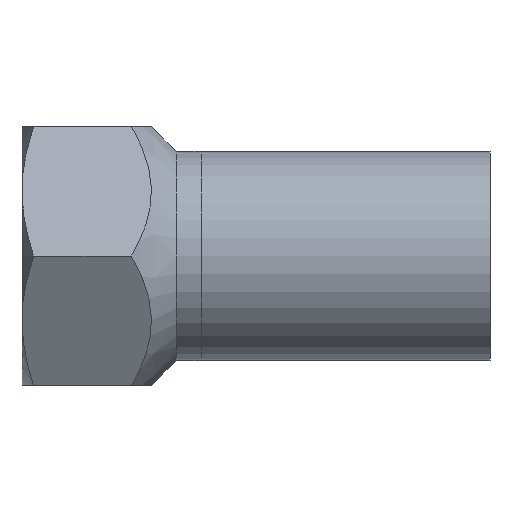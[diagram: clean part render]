
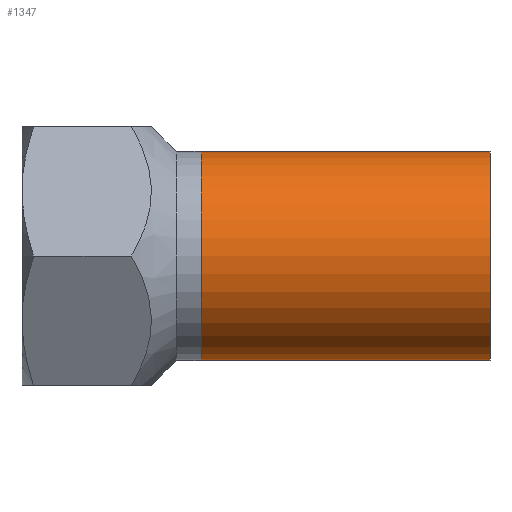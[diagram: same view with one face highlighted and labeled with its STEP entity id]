
A CAD part, front view. The second image highlights one B-rep face of the part: STEP entity #1347.
In plain terms, the highlighted cylindrical face has radius 21 mm (diameter 42 mm), a partial arc.
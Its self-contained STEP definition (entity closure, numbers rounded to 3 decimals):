
#29 = CARTESIAN_POINT ( 'NONE',  ( 0., 0., 0. ) ) ;
#32 = LINE ( 'NONE', #899, #268 ) ;
#64 = VERTEX_POINT ( 'NONE', #563 ) ;
#197 = EDGE_CURVE ( 'NONE', #409, #64, #1096, .T. ) ;
#221 = VECTOR ( 'NONE', #375, 1000. ) ;
#268 = VECTOR ( 'NONE', #794, 1000. ) ;
#302 = EDGE_LOOP ( 'NONE', ( #973, #1102, #343, #446 ) ) ;
#308 = CYLINDRICAL_SURFACE ( 'NONE', #1290, 21. ) ;
#343 = ORIENTED_EDGE ( 'NONE', *, *, #197, .T. ) ;
#367 = DIRECTION ( 'NONE',  ( 0., 0., -1. ) ) ;
#375 = DIRECTION ( 'NONE',  ( 1., 0., 0. ) ) ;
#397 = DIRECTION ( 'NONE',  ( 1., 0., 0. ) ) ;
#409 = VERTEX_POINT ( 'NONE', #1005 ) ;
#434 = DIRECTION ( 'NONE',  ( 0., 0., -1. ) ) ;
#446 = ORIENTED_EDGE ( 'NONE', *, *, #1015, .F. ) ;
#563 = CARTESIAN_POINT ( 'NONE',  ( 58., 0., -21. ) ) ;
#592 = DIRECTION ( 'NONE',  ( 0., 0., -1. ) ) ;
#670 = FACE_OUTER_BOUND ( 'NONE', #302, .T. ) ;
#674 = VERTEX_POINT ( 'NONE', #800 ) ;
#683 = CARTESIAN_POINT ( 'NONE',  ( 0., 0., -21. ) ) ;
#724 = EDGE_CURVE ( 'NONE', #1178, #409, #738, .T. ) ;
#738 = CIRCLE ( 'NONE', #862, 21. ) ;
#780 = CARTESIAN_POINT ( 'NONE',  ( 0., 0., 21. ) ) ;
#794 = DIRECTION ( 'NONE',  ( 1., 0., 0. ) ) ;
#799 = AXIS2_PLACEMENT_3D ( 'NONE', #1345, #397, #367 ) ;
#800 = CARTESIAN_POINT ( 'NONE',  ( 58., 0., 21. ) ) ;
#862 = AXIS2_PLACEMENT_3D ( 'NONE', #29, #1047, #434 ) ;
#899 = CARTESIAN_POINT ( 'NONE',  ( 0., 0., 21. ) ) ;
#902 = EDGE_CURVE ( 'NONE', #1178, #674, #32, .T. ) ;
#929 = CIRCLE ( 'NONE', #799, 21. ) ;
#973 = ORIENTED_EDGE ( 'NONE', *, *, #902, .F. ) ;
#1005 = CARTESIAN_POINT ( 'NONE',  ( 0., 0., -21. ) ) ;
#1015 = EDGE_CURVE ( 'NONE', #674, #64, #929, .T. ) ;
#1047 = DIRECTION ( 'NONE',  ( 1., 0., 0. ) ) ;
#1096 = LINE ( 'NONE', #683, #221 ) ;
#1102 = ORIENTED_EDGE ( 'NONE', *, *, #724, .T. ) ;
#1129 = CARTESIAN_POINT ( 'NONE',  ( 0., 0., 0. ) ) ;
#1178 = VERTEX_POINT ( 'NONE', #780 ) ;
#1290 = AXIS2_PLACEMENT_3D ( 'NONE', #1129, #1340, #592 ) ;
#1340 = DIRECTION ( 'NONE',  ( 1., 0., 0. ) ) ;
#1345 = CARTESIAN_POINT ( 'NONE',  ( 58., 0., 0. ) ) ;
#1347 = ADVANCED_FACE ( 'NONE', ( #670 ), #308, .T. ) ;
